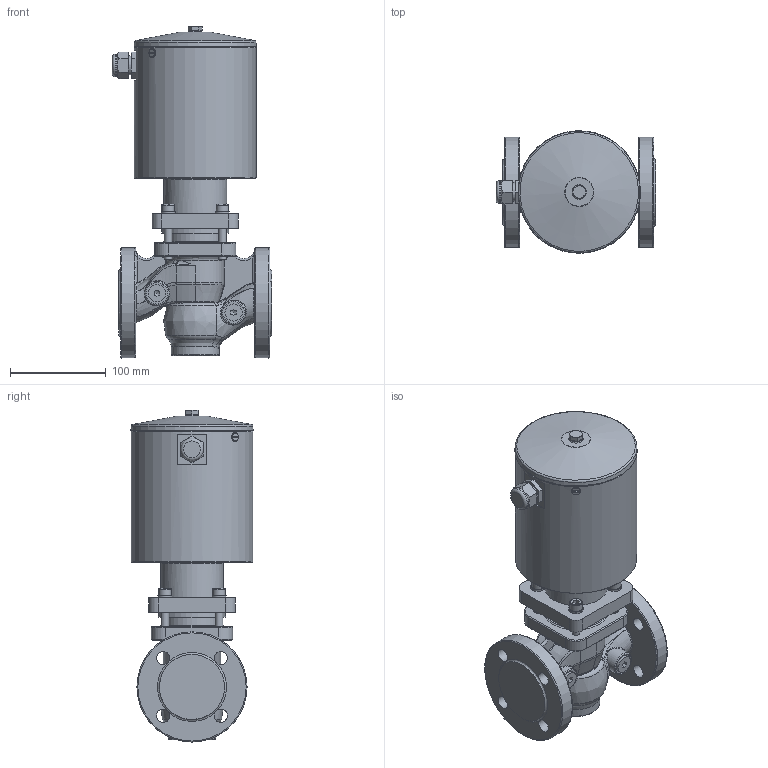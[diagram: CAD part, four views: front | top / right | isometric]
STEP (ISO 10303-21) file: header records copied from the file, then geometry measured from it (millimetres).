
FILE_DESCRIPTION((''),'2;1');
FILE_NAME('G:\CAD-Download\EVSA\10-EVSA\DN 25\10-EVSA 10NH-4.02.32.stp','2009-11-12T08:44:40',('hb'),(''),'Autodesk Inventor 2008','Autodesk Inventor 2008','');
FILE_SCHEMA(('AUTOMOTIVE_DESIGN { 1 0 10303 214 1 1 1 1 }'));
Length unit declared in the file: millimetre
Products named in the file (1): 10-EVSA 10NH-4.02
Bounding box: 166.7 x 127.72 x 346.66 mm (x, y, z)
Volume: 3020921.1 mm3; surface area: 217869.8 mm2
Topology: 1 solids, 1 shells, 468 faces, 1147 edges, 699 vertices
Faces by surface type: bspline 160, plane 148, cylinder 90, torus 39, cone 31
Full cylindrical faces by diameter (mm): 8 x12, 11.63 x1, 13 x4, 18 x4, 20 x1, 22.5 x2, 23.713 x1, 25 x4, 50 x1, 52 x1, 58 x1, 65.5 x1, 70 x1, 115 x2, 124 x1, 127 x1
Entity records: 28429 total; most frequent: CARTESIAN_POINT 18498, ORIENTED_EDGE 2006, DIRECTION 1698, EDGE_CURVE 1003, AXIS2_PLACEMENT_3D 717, VERTEX_POINT 654, EDGE_LOOP 615, FACE_OUTER_BOUND 467
